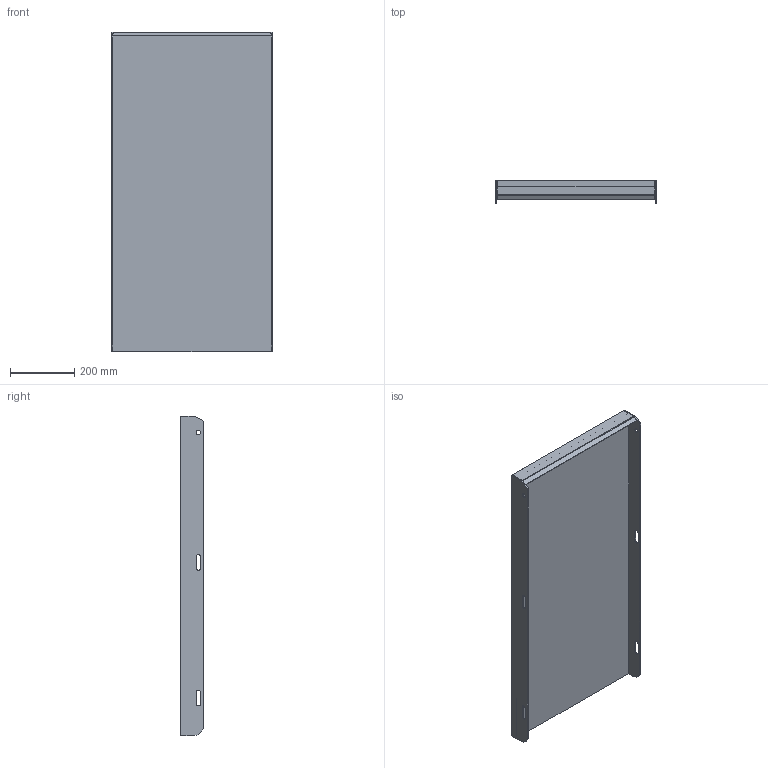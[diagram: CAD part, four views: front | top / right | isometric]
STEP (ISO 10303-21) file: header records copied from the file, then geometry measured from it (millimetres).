
FILE_DESCRIPTION (( 'STEP AP203' ), '1' );
FILE_NAME ('148805101, Plan TH6, 500x1000, vfz.STEP', '2020-10-21T13:26:40', ( '' ), ( '' ), 'SwSTEP 2.0', 'SolidWorks 2019', '' );
FILE_SCHEMA (( 'CONFIG_CONTROL_DESIGN' ));
Length unit declared in the file: millimetre
Products named in the file (4): SW0000041476; SW0000041815; 148805101, Plan TH6, 500x1000, vfz; SW0000041407
Assembly tree (4 placements, depth 2):
  148805101, Plan TH6, 500x1000, vfz
    SW0000041815
    SW0000041407  x2
    SW0000041476
Bounding box: 500 x 70 x 997 mm (x, y, z)
Volume: 10315217 mm3; surface area: 1390612.9 mm2
Topology: 4 solids, 4 shells, 69 faces, 172 edges, 112 vertices
Faces by surface type: plane 49, cylinder 20
Entity records: 1868 total; most frequent: DIRECTION 252, CARTESIAN_POINT 250, ORIENTED_EDGE 236, EDGE_CURVE 118, VECTOR 96, LINE 96, AXIS2_PLACEMENT_3D 78, VERTEX_POINT 76
